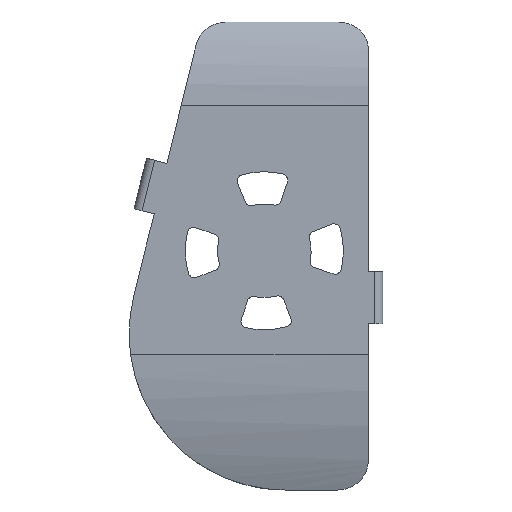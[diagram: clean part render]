
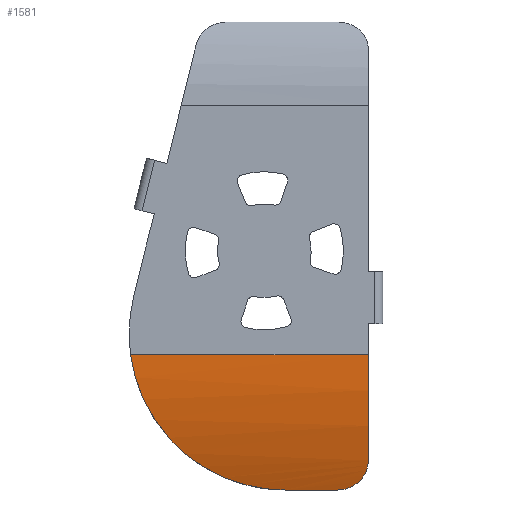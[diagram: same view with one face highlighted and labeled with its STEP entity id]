
A CAD part, front view. The second image highlights one B-rep face of the part: STEP entity #1581.
In plain terms, the highlighted cylindrical face has radius 175.25 mm (diameter 350.5 mm), a partial arc.
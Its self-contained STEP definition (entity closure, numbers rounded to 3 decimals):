
#41=B_SPLINE_CURVE_WITH_KNOTS('',3,(#2636,#2637,#2638,#2639,#2640,#2641,
#2642,#2643,#2644,#2645,#2646,#2647,#2648,#2649),.UNSPECIFIED.,.F.,.F.,
(4,2,2,2,2,2,4),(2.269,2.552,2.835,3.118,
3.401,3.966,4.531),.UNSPECIFIED.);
#43=B_SPLINE_CURVE_WITH_KNOTS('',3,(#2674,#2675,#2676,#2677,#2678,#2679,
#2680,#2681,#2682,#2683,#2684,#2685,#2686,#2687,#2688,#2689,#2690,#2691),
 .UNSPECIFIED.,.F.,.F.,(4,2,2,2,2,2,2,2,4),(-10.42,-9.986,
-8.565,-7.145,-5.725,-4.294,-2.862,
-1.431,0.),.UNSPECIFIED.);
#109=FACE_OUTER_BOUND('',#191,.T.);
#191=EDGE_LOOP('',(#1165,#1166,#1167,#1168,#1169));
#313=LINE('',#2672,#440);
#314=LINE('',#2692,#441);
#440=VECTOR('',#2080,10.);
#441=VECTOR('',#2081,10.);
#555=CIRCLE('',#1736,175.25);
#687=VERTEX_POINT('',#2634);
#688=VERTEX_POINT('',#2635);
#691=VERTEX_POINT('',#2669);
#692=VERTEX_POINT('',#2671);
#693=VERTEX_POINT('',#2673);
#883=EDGE_CURVE('',#687,#688,#41,.T.);
#887=EDGE_CURVE('',#687,#691,#555,.T.);
#888=EDGE_CURVE('',#691,#692,#313,.T.);
#889=EDGE_CURVE('',#692,#693,#43,.T.);
#890=EDGE_CURVE('',#693,#688,#314,.T.);
#1165=ORIENTED_EDGE('',*,*,#883,.F.);
#1166=ORIENTED_EDGE('',*,*,#887,.T.);
#1167=ORIENTED_EDGE('',*,*,#888,.T.);
#1168=ORIENTED_EDGE('',*,*,#889,.T.);
#1169=ORIENTED_EDGE('',*,*,#890,.T.);
#1515=CYLINDRICAL_SURFACE('',#1735,175.25);
#1581=ADVANCED_FACE('',(#109),#1515,.T.);
#1735=AXIS2_PLACEMENT_3D('',#2668,#2076,#2077);
#1736=AXIS2_PLACEMENT_3D('',#2670,#2078,#2079);
#2076=DIRECTION('center_axis',(-1.,0.,0.));
#2077=DIRECTION('ref_axis',(0.,-1.,0.));
#2078=DIRECTION('center_axis',(-1.,0.,0.));
#2079=DIRECTION('ref_axis',(0.,-1.,0.));
#2080=DIRECTION('',(-1.,0.,0.));
#2081=DIRECTION('',(1.,0.,0.));
#2634=CARTESIAN_POINT('',(0.,-4.966,-210.831));
#2635=CARTESIAN_POINT('',(-15.,0.,-225.));
#2636=CARTESIAN_POINT('Ctrl Pts',(0.,-4.966,
-210.831));
#2637=CARTESIAN_POINT('Ctrl Pts',(0.,-4.693,
-211.734));
#2638=CARTESIAN_POINT('Ctrl Pts',(-0.09,-4.402,
-212.665));
#2639=CARTESIAN_POINT('Ctrl Pts',(-0.468,-3.809,
-214.513));
#2640=CARTESIAN_POINT('Ctrl Pts',(-0.757,-3.506,
-215.429));
#2641=CARTESIAN_POINT('Ctrl Pts',(-1.522,-2.911,-217.182));
#2642=CARTESIAN_POINT('Ctrl Pts',(-1.999,-2.619,-218.02));
#2643=CARTESIAN_POINT('Ctrl Pts',(-3.101,-2.068,-219.566));
#2644=CARTESIAN_POINT('Ctrl Pts',(-3.727,-1.81,-220.274));
#2645=CARTESIAN_POINT('Ctrl Pts',(-5.725,-1.115,-222.149));
#2646=CARTESIAN_POINT('Ctrl Pts',(-7.412,-0.699,
-223.225));
#2647=CARTESIAN_POINT('Ctrl Pts',(-11.107,-0.141,-224.651));
#2648=CARTESIAN_POINT('Ctrl Pts',(-13.116,0.,
-225.));
#2649=CARTESIAN_POINT('Ctrl Pts',(-15.,0.,-225.));
#2668=CARTESIAN_POINT('Origin',(0.,162.75,-160.));
#2669=CARTESIAN_POINT('',(0.,-12.5,-160.));
#2670=CARTESIAN_POINT('Origin',(0.,162.75,-160.));
#2671=CARTESIAN_POINT('',(-114.33,-12.5,-160.));
#2672=CARTESIAN_POINT('',(0.,-12.5,-160.));
#2673=CARTESIAN_POINT('',(-40.,0.,-225.));
#2674=CARTESIAN_POINT('Ctrl Pts',(-114.33,-12.5,-160.));
#2675=CARTESIAN_POINT('Ctrl Pts',(-114.131,-12.5,-161.485));
#2676=CARTESIAN_POINT('Ctrl Pts',(-113.885,-12.481,-162.973));
#2677=CARTESIAN_POINT('Ctrl Pts',(-112.641,-12.32,-169.305));
#2678=CARTESIAN_POINT('Ctrl Pts',(-111.191,-11.992,-174.12));
#2679=CARTESIAN_POINT('Ctrl Pts',(-107.37,-11.001,-183.334));
#2680=CARTESIAN_POINT('Ctrl Pts',(-104.997,-10.34,-187.742));
#2681=CARTESIAN_POINT('Ctrl Pts',(-99.529,-8.837,-195.884));
#2682=CARTESIAN_POINT('Ctrl Pts',(-96.434,-7.997,-199.618));
#2683=CARTESIAN_POINT('Ctrl Pts',(-89.832,-6.322,-206.248));
#2684=CARTESIAN_POINT('Ctrl Pts',(-86.089,-5.426,-209.373));
#2685=CARTESIAN_POINT('Ctrl Pts',(-77.927,-3.707,-214.891));
#2686=CARTESIAN_POINT('Ctrl Pts',(-73.508,-2.886,-217.285));
#2687=CARTESIAN_POINT('Ctrl Pts',(-64.266,-1.501,-221.142));
#2688=CARTESIAN_POINT('Ctrl Pts',(-59.435,-0.938,
-222.608));
#2689=CARTESIAN_POINT('Ctrl Pts',(-49.687,-0.187,-224.538));
#2690=CARTESIAN_POINT('Ctrl Pts',(-44.771,0.,
-225.));
#2691=CARTESIAN_POINT('Ctrl Pts',(-40.,0.,-225.));
#2692=CARTESIAN_POINT('',(0.,0.,-225.));
